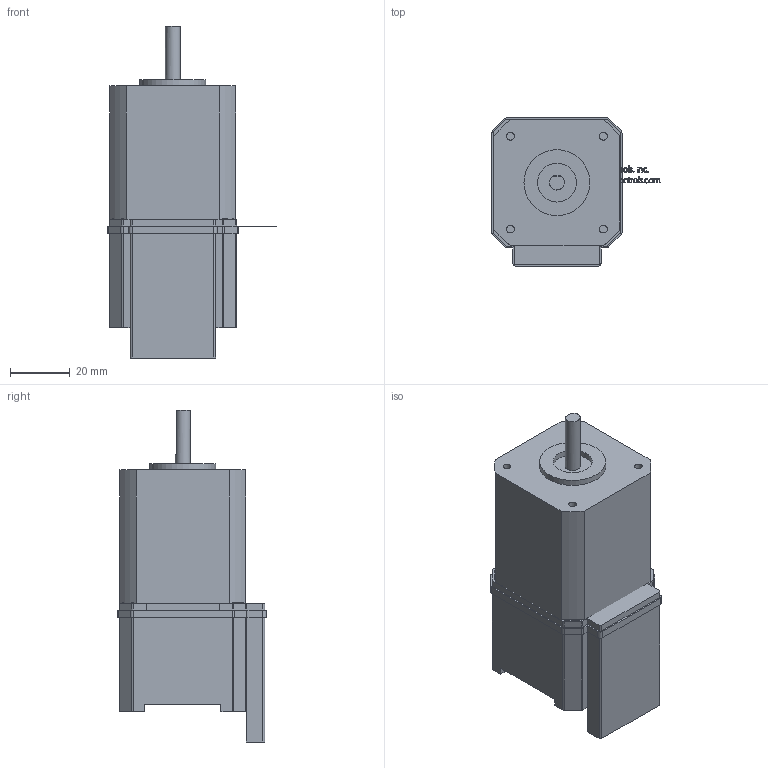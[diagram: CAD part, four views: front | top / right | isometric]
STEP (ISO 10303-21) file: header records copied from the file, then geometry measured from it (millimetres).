
FILE_DESCRIPTION(/* description */ ('Alibre Inc.'),/* implementation_level */ '2;1');
FILE_NAME(/* name */ 'export0',/* time_stamp */ '2008-02-05T17:20:36-08:00',/* author */ (''),/* organization */ (''),/* preprocessor_version */ 'ST-DEVELOPER v10',/* originating_system */ 'Alibre',/* authorisation */ '');
FILE_SCHEMA (('ALIBRE_SCHEMA','CONFIG_CONTROL_DESIGN'));
Length unit declared in the file: centimetre
Products named in the file (8): ID_1
Bounding box: 56.16 x 49.53 x 110.76 mm (x, y, z)
Volume: 95119.8 mm3; surface area: 35996.6 mm2
Topology: 62 solids, 62 shells, 1205 faces, 3154 edges, 2092 vertices
Faces by surface type: bspline 571, plane 541, cylinder 93
Full cylindrical faces by diameter (mm): 1.216 x14, 2.616 x4, 5 x2, 12.954 x1, 14.732 x1, 15.24 x1, 16 x1, 19.99 x1, 22 x1
Entity records: 64071 total; most frequent: CARTESIAN_POINT 16937, ORIENTED_EDGE 6288, CONSTRAINTPAIRUV 3823, DIRECTION 3800, EDGE_CURVE 3121, PERSISTANTTOPOLOGYATTRIBUTE 2752, VECTOR 2597, REFERENCEPOINTUV 2462
